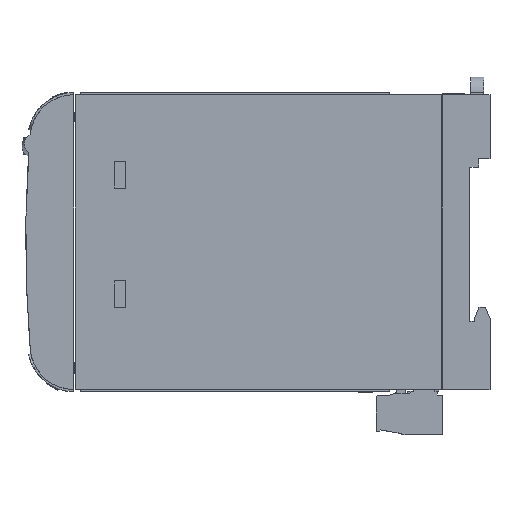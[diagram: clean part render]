
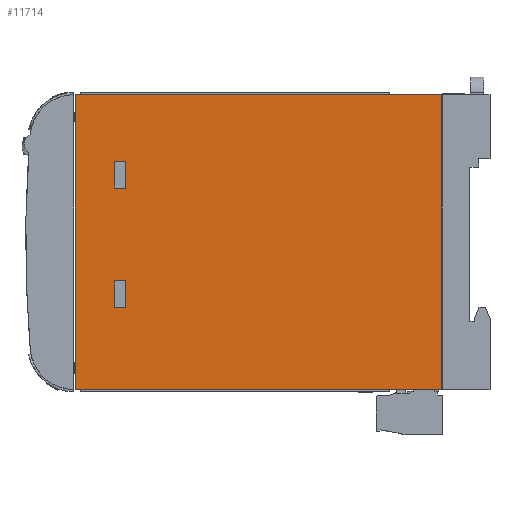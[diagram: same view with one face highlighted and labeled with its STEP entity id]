
A CAD part, top view. The second image highlights one B-rep face of the part: STEP entity #11714.
In plain terms, the highlighted planar face has unit normal (0, 0, 1).
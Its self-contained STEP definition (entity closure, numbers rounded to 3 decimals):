
#485=FACE_BOUND('',#2186,.T.);
#486=FACE_BOUND('',#2187,.T.);
#1070=PLANE('',#12505);
#1521=FACE_OUTER_BOUND('',#2185,.T.);
#2185=EDGE_LOOP('',(#8685,#8686,#8687,#8688));
#2186=EDGE_LOOP('',(#8689,#8690,#8691,#8692));
#2187=EDGE_LOOP('',(#8693,#8694,#8695,#8696));
#2952=LINE('',#19044,#4048);
#2956=LINE('',#19052,#4052);
#2959=LINE('',#19058,#4055);
#2962=LINE('',#19063,#4058);
#2964=LINE('',#19069,#4060);
#2968=LINE('',#19077,#4064);
#2971=LINE('',#19083,#4067);
#2974=LINE('',#19088,#4070);
#2980=LINE('',#19103,#4076);
#2981=LINE('',#19105,#4077);
#2982=LINE('',#19107,#4078);
#2983=LINE('',#19108,#4079);
#4048=VECTOR('',#13664,10.);
#4052=VECTOR('',#13670,10.);
#4055=VECTOR('',#13675,10.);
#4058=VECTOR('',#13680,10.);
#4060=VECTOR('',#13686,10.);
#4064=VECTOR('',#13692,10.);
#4067=VECTOR('',#13697,10.);
#4070=VECTOR('',#13702,10.);
#4076=VECTOR('',#13714,10.);
#4077=VECTOR('',#13715,10.);
#4078=VECTOR('',#13716,10.);
#4079=VECTOR('',#13717,10.);
#5474=VERTEX_POINT('',#19042);
#5475=VERTEX_POINT('',#19043);
#5478=VERTEX_POINT('',#19051);
#5480=VERTEX_POINT('',#19057);
#5482=VERTEX_POINT('',#19067);
#5483=VERTEX_POINT('',#19068);
#5486=VERTEX_POINT('',#19076);
#5488=VERTEX_POINT('',#19082);
#5494=VERTEX_POINT('',#19101);
#5495=VERTEX_POINT('',#19102);
#5496=VERTEX_POINT('',#19104);
#5497=VERTEX_POINT('',#19106);
#6678=EDGE_CURVE('',#5474,#5475,#2952,.T.);
#6682=EDGE_CURVE('',#5478,#5474,#2956,.T.);
#6685=EDGE_CURVE('',#5480,#5478,#2959,.T.);
#6688=EDGE_CURVE('',#5475,#5480,#2962,.T.);
#6690=EDGE_CURVE('',#5482,#5483,#2964,.T.);
#6694=EDGE_CURVE('',#5486,#5482,#2968,.T.);
#6697=EDGE_CURVE('',#5488,#5486,#2971,.T.);
#6700=EDGE_CURVE('',#5483,#5488,#2974,.T.);
#6706=EDGE_CURVE('',#5494,#5495,#2980,.T.);
#6707=EDGE_CURVE('',#5495,#5496,#2981,.T.);
#6708=EDGE_CURVE('',#5496,#5497,#2982,.T.);
#6709=EDGE_CURVE('',#5497,#5494,#2983,.T.);
#8685=ORIENTED_EDGE('',*,*,#6706,.T.);
#8686=ORIENTED_EDGE('',*,*,#6707,.T.);
#8687=ORIENTED_EDGE('',*,*,#6708,.T.);
#8688=ORIENTED_EDGE('',*,*,#6709,.T.);
#8689=ORIENTED_EDGE('',*,*,#6678,.T.);
#8690=ORIENTED_EDGE('',*,*,#6688,.T.);
#8691=ORIENTED_EDGE('',*,*,#6685,.T.);
#8692=ORIENTED_EDGE('',*,*,#6682,.T.);
#8693=ORIENTED_EDGE('',*,*,#6690,.T.);
#8694=ORIENTED_EDGE('',*,*,#6700,.T.);
#8695=ORIENTED_EDGE('',*,*,#6697,.T.);
#8696=ORIENTED_EDGE('',*,*,#6694,.T.);
#11714=ADVANCED_FACE('',(#1521,#485,#486),#1070,.T.);
#12505=AXIS2_PLACEMENT_3D('',#19100,#13712,#13713);
#13664=DIRECTION('',(0.,-1.,0.));
#13670=DIRECTION('',(1.,0.,0.));
#13675=DIRECTION('',(0.,1.,0.));
#13680=DIRECTION('',(-1.,0.,0.));
#13686=DIRECTION('',(0.,-1.,0.));
#13692=DIRECTION('',(1.,0.,0.));
#13697=DIRECTION('',(0.,1.,0.));
#13702=DIRECTION('',(-1.,0.,0.));
#13712=DIRECTION('center_axis',(0.,0.,1.));
#13713=DIRECTION('ref_axis',(1.,0.,0.));
#13714=DIRECTION('',(0.,1.,0.));
#13715=DIRECTION('',(-1.,0.,0.));
#13716=DIRECTION('',(0.,-1.,0.));
#13717=DIRECTION('',(1.,0.,0.));
#19042=CARTESIAN_POINT('',(22.695,24.673,22.));
#19043=CARTESIAN_POINT('',(22.695,18.673,22.));
#19044=CARTESIAN_POINT('',(22.695,29.087,22.));
#19051=CARTESIAN_POINT('',(20.195,24.673,22.));
#19052=CARTESIAN_POINT('',(36.472,24.673,22.));
#19057=CARTESIAN_POINT('',(20.195,18.673,22.));
#19058=CARTESIAN_POINT('',(20.195,26.087,22.));
#19063=CARTESIAN_POINT('',(37.722,18.673,22.));
#19067=CARTESIAN_POINT('',(22.695,51.787,22.));
#19068=CARTESIAN_POINT('',(22.695,45.787,22.));
#19069=CARTESIAN_POINT('',(22.695,42.643,22.));
#19076=CARTESIAN_POINT('',(20.195,51.787,22.));
#19077=CARTESIAN_POINT('',(36.472,51.787,22.));
#19082=CARTESIAN_POINT('',(20.195,45.787,22.));
#19083=CARTESIAN_POINT('',(20.195,39.643,22.));
#19088=CARTESIAN_POINT('',(37.722,45.787,22.));
#19100=CARTESIAN_POINT('Origin',(52.75,33.5,22.));
#19101=CARTESIAN_POINT('',(94.4,0.,22.));
#19102=CARTESIAN_POINT('',(94.4,67.,22.));
#19103=CARTESIAN_POINT('',(94.4,50.25,22.));
#19104=CARTESIAN_POINT('',(11.219,67.,22.));
#19105=CARTESIAN_POINT('',(105.5,67.,22.));
#19106=CARTESIAN_POINT('',(11.219,0.,22.));
#19107=CARTESIAN_POINT('',(11.219,50.5,22.));
#19108=CARTESIAN_POINT('',(11.019,0.,22.));
